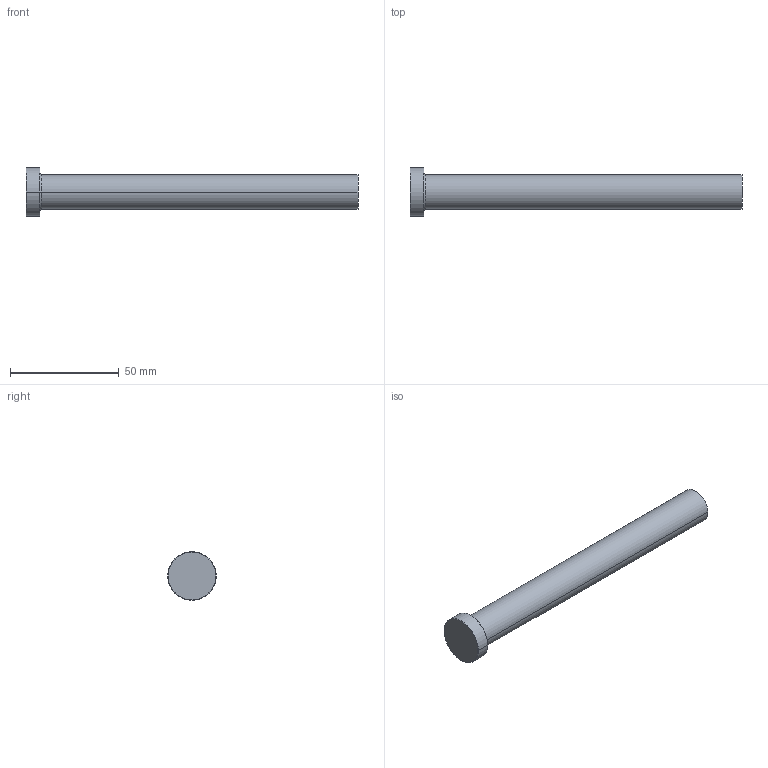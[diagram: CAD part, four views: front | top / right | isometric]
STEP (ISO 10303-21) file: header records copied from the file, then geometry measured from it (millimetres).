
FILE_DESCRIPTION (( 'STEP AP214' ), '1' );
FILE_NAME ('P37-6.STEP', '2020-03-12T12:05:33', ( '' ), ( '' ), 'SwSTEP 2.0', 'SolidWorks 2018', '' );
FILE_SCHEMA (( 'AUTOMOTIVE_DESIGN' ));
Length unit declared in the file: inch
Products named in the file (1): P37-6
Bounding box: 152.4 x 22.23 x 22.23 mm (x, y, z)
Volume: 31330.9 mm3; surface area: 8473 mm2
Topology: 1 solids, 1 shells, 13 faces, 24 edges, 14 vertices
Faces by surface type: cone 4, cylinder 4, plane 3, torus 2
Entity records: 366 total; most frequent: DIRECTION 68, CARTESIAN_POINT 52, ORIENTED_EDGE 48, AXIS2_PLACEMENT_3D 30, EDGE_CURVE 24, CIRCLE 16, EDGE_LOOP 14, VERTEX_POINT 14
